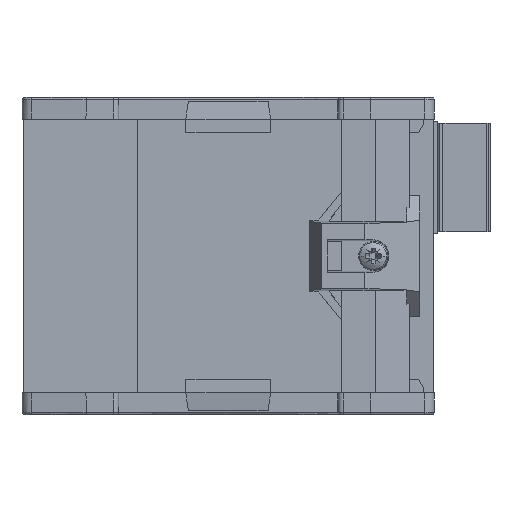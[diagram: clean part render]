
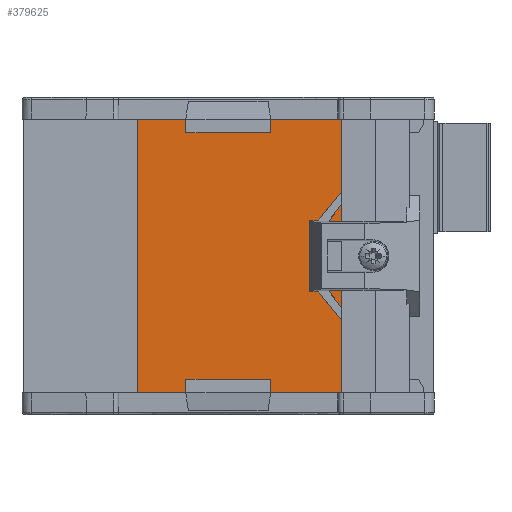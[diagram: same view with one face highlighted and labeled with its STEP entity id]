
A CAD part, left-side view. The second image highlights one B-rep face of the part: STEP entity #379625.
In plain terms, the highlighted planar face has unit normal (-1, 0, 0).
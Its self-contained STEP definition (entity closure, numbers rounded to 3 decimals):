
#373836 = PLANE('',#373837);
#373837 = AXIS2_PLACEMENT_3D('',#373838,#373839,#373840);
#373838 = CARTESIAN_POINT('',(-3.808,36.,51.));
#373839 = DIRECTION('',(0.,0.,-1.));
#373840 = DIRECTION('',(-1.,0.,0.));
#373895 = PLANE('',#373896);
#373896 = AXIS2_PLACEMENT_3D('',#373897,#373898,#373899);
#373897 = CARTESIAN_POINT('',(-3.808,36.,1.));
#373898 = DIRECTION('',(0.,0.,-1.));
#373899 = DIRECTION('',(-1.,0.,0.));
#375779 = VERTEX_POINT('',#375780);
#375780 = CARTESIAN_POINT('',(-25.228,-20.8,1.));
#375794 = PLANE('',#375795);
#375795 = AXIS2_PLACEMENT_3D('',#375796,#375797,#375798);
#375796 = CARTESIAN_POINT('',(-25.228,-20.8,1.));
#375797 = DIRECTION('',(0.,-1.,0.));
#375798 = DIRECTION('',(-1.,0.,0.));
#375806 = EDGE_CURVE('',#375807,#375779,#375809,.T.);
#375807 = VERTEX_POINT('',#375808);
#375808 = CARTESIAN_POINT('',(-25.228,16.5,1.));
#375809 = SURFACE_CURVE('',#375810,(#375814,#375821),.PCURVE_S1.);
#375810 = LINE('',#375811,#375812);
#375811 = CARTESIAN_POINT('',(-25.228,16.5,1.));
#375812 = VECTOR('',#375813,1.);
#375813 = DIRECTION('',(0.,-1.,0.));
#375814 = PCURVE('',#373895,#375815);
#375815 = DEFINITIONAL_REPRESENTATION('',(#375816),#375820);
#375816 = LINE('',#375817,#375818);
#375817 = CARTESIAN_POINT('',(21.42,-19.5));
#375818 = VECTOR('',#375819,1.);
#375819 = DIRECTION('',(0.,-1.));
#375820 = ( GEOMETRIC_REPRESENTATION_CONTEXT(2) 
PARAMETRIC_REPRESENTATION_CONTEXT() REPRESENTATION_CONTEXT('2D SPACE',''
  ) );
#375821 = PCURVE('',#375822,#375827);
#375822 = PLANE('',#375823);
#375823 = AXIS2_PLACEMENT_3D('',#375824,#375825,#375826);
#375824 = CARTESIAN_POINT('',(-25.228,16.5,1.));
#375825 = DIRECTION('',(1.,0.,0.));
#375826 = DIRECTION('',(0.,-1.,0.));
#375827 = DEFINITIONAL_REPRESENTATION('',(#375828),#375832);
#375828 = LINE('',#375829,#375830);
#375829 = CARTESIAN_POINT('',(0.,0.));
#375830 = VECTOR('',#375831,1.);
#375831 = DIRECTION('',(1.,0.));
#375832 = ( GEOMETRIC_REPRESENTATION_CONTEXT(2) 
PARAMETRIC_REPRESENTATION_CONTEXT() REPRESENTATION_CONTEXT('2D SPACE',''
  ) );
#375850 = PLANE('',#375851);
#375851 = AXIS2_PLACEMENT_3D('',#375852,#375853,#375854);
#375852 = CARTESIAN_POINT('',(-29.418,16.5,1.));
#375853 = DIRECTION('',(0.,1.,0.));
#375854 = DIRECTION('',(1.,0.,0.));
#376920 = VERTEX_POINT('',#376921);
#376921 = CARTESIAN_POINT('',(-25.228,-20.8,51.));
#376942 = EDGE_CURVE('',#376943,#376920,#376945,.T.);
#376943 = VERTEX_POINT('',#376944);
#376944 = CARTESIAN_POINT('',(-25.228,16.5,51.));
#376945 = SURFACE_CURVE('',#376946,(#376950,#376957),.PCURVE_S1.);
#376946 = LINE('',#376947,#376948);
#376947 = CARTESIAN_POINT('',(-25.228,16.5,51.));
#376948 = VECTOR('',#376949,1.);
#376949 = DIRECTION('',(0.,-1.,0.));
#376950 = PCURVE('',#373836,#376951);
#376951 = DEFINITIONAL_REPRESENTATION('',(#376952),#376956);
#376952 = LINE('',#376953,#376954);
#376953 = CARTESIAN_POINT('',(21.42,-19.5));
#376954 = VECTOR('',#376955,1.);
#376955 = DIRECTION('',(0.,-1.));
#376956 = ( GEOMETRIC_REPRESENTATION_CONTEXT(2) 
PARAMETRIC_REPRESENTATION_CONTEXT() REPRESENTATION_CONTEXT('2D SPACE',''
  ) );
#376957 = PCURVE('',#375822,#376958);
#376958 = DEFINITIONAL_REPRESENTATION('',(#376959),#376963);
#376959 = LINE('',#376960,#376961);
#376960 = CARTESIAN_POINT('',(0.,-50.));
#376961 = VECTOR('',#376962,1.);
#376962 = DIRECTION('',(1.,0.));
#376963 = ( GEOMETRIC_REPRESENTATION_CONTEXT(2) 
PARAMETRIC_REPRESENTATION_CONTEXT() REPRESENTATION_CONTEXT('2D SPACE',''
  ) );
#379602 = EDGE_CURVE('',#375779,#376920,#379603,.T.);
#379603 = SURFACE_CURVE('',#379604,(#379608,#379615),.PCURVE_S1.);
#379604 = LINE('',#379605,#379606);
#379605 = CARTESIAN_POINT('',(-25.228,-20.8,1.));
#379606 = VECTOR('',#379607,1.);
#379607 = DIRECTION('',(0.,0.,1.));
#379608 = PCURVE('',#375794,#379609);
#379609 = DEFINITIONAL_REPRESENTATION('',(#379610),#379614);
#379610 = LINE('',#379611,#379612);
#379611 = CARTESIAN_POINT('',(0.,0.));
#379612 = VECTOR('',#379613,1.);
#379613 = DIRECTION('',(0.,-1.));
#379614 = ( GEOMETRIC_REPRESENTATION_CONTEXT(2) 
PARAMETRIC_REPRESENTATION_CONTEXT() REPRESENTATION_CONTEXT('2D SPACE',''
  ) );
#379615 = PCURVE('',#375822,#379616);
#379616 = DEFINITIONAL_REPRESENTATION('',(#379617),#379621);
#379617 = LINE('',#379618,#379619);
#379618 = CARTESIAN_POINT('',(37.3,0.));
#379619 = VECTOR('',#379620,1.);
#379620 = DIRECTION('',(0.,-1.));
#379621 = ( GEOMETRIC_REPRESENTATION_CONTEXT(2) 
PARAMETRIC_REPRESENTATION_CONTEXT() REPRESENTATION_CONTEXT('2D SPACE',''
  ) );
#379625 = ADVANCED_FACE('',(#379626),#375822,.F.);
#379626 = FACE_BOUND('',#379627,.F.);
#379627 = EDGE_LOOP('',(#379628,#379649,#379650,#379651));
#379628 = ORIENTED_EDGE('',*,*,#379629,.T.);
#379629 = EDGE_CURVE('',#375807,#376943,#379630,.T.);
#379630 = SURFACE_CURVE('',#379631,(#379635,#379642),.PCURVE_S1.);
#379631 = LINE('',#379632,#379633);
#379632 = CARTESIAN_POINT('',(-25.228,16.5,1.));
#379633 = VECTOR('',#379634,1.);
#379634 = DIRECTION('',(0.,0.,1.));
#379635 = PCURVE('',#375822,#379636);
#379636 = DEFINITIONAL_REPRESENTATION('',(#379637),#379641);
#379637 = LINE('',#379638,#379639);
#379638 = CARTESIAN_POINT('',(0.,0.));
#379639 = VECTOR('',#379640,1.);
#379640 = DIRECTION('',(0.,-1.));
#379641 = ( GEOMETRIC_REPRESENTATION_CONTEXT(2) 
PARAMETRIC_REPRESENTATION_CONTEXT() REPRESENTATION_CONTEXT('2D SPACE',''
  ) );
#379642 = PCURVE('',#375850,#379643);
#379643 = DEFINITIONAL_REPRESENTATION('',(#379644),#379648);
#379644 = LINE('',#379645,#379646);
#379645 = CARTESIAN_POINT('',(4.19,0.));
#379646 = VECTOR('',#379647,1.);
#379647 = DIRECTION('',(0.,-1.));
#379648 = ( GEOMETRIC_REPRESENTATION_CONTEXT(2) 
PARAMETRIC_REPRESENTATION_CONTEXT() REPRESENTATION_CONTEXT('2D SPACE',''
  ) );
#379649 = ORIENTED_EDGE('',*,*,#376942,.T.);
#379650 = ORIENTED_EDGE('',*,*,#379602,.F.);
#379651 = ORIENTED_EDGE('',*,*,#375806,.F.);
